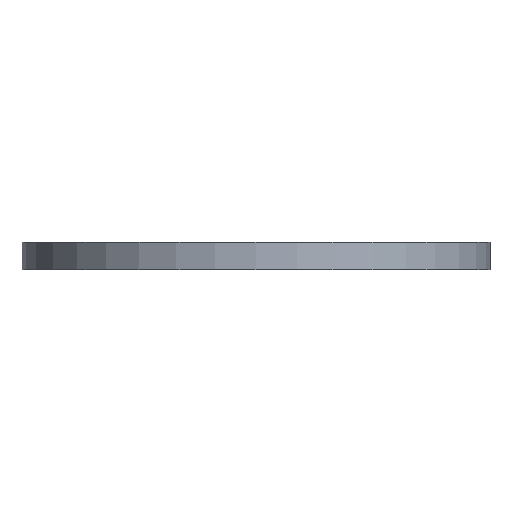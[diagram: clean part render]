
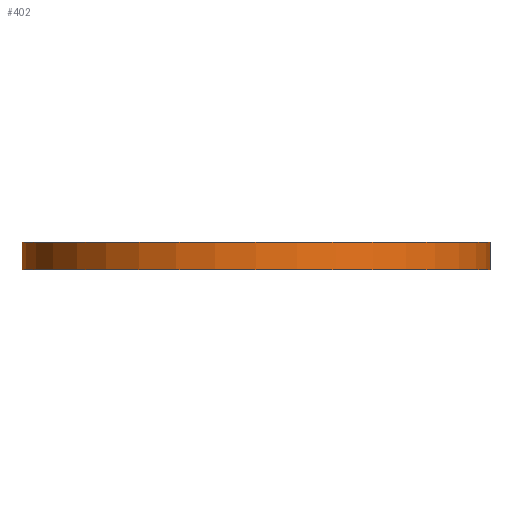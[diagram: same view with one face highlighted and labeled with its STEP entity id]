
A CAD part, left-side view. The second image highlights one B-rep face of the part: STEP entity #402.
In plain terms, the highlighted cylindrical face has radius 88.5 mm (diameter 177 mm), a partial arc.
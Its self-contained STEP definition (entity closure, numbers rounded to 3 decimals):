
#402=ADVANCED_FACE('',(#885),#4695,.T.);
#885=FACE_OUTER_BOUND('',#1368,.F.);
#1368=EDGE_LOOP('',(#1997,#1998,#1999,#2000));
#1997=ORIENTED_EDGE('',*,*,#6977,.T.);
#1998=ORIENTED_EDGE('',*,*,#6979,.F.);
#1999=ORIENTED_EDGE('',*,*,#6978,.T.);
#2000=ORIENTED_EDGE('',*,*,#6980,.T.);
#4695=CYLINDRICAL_SURFACE('',#9907,88.5);
#5132=LINE('',#14584,#5919);
#5133=LINE('',#14585,#5920);
#5919=VECTOR('',#11095,10.3);
#5920=VECTOR('',#11096,10.3);
#6977=EDGE_CURVE('',#8915,#8914,#8170,.T.);
#6978=EDGE_CURVE('',#8913,#8912,#8171,.T.);
#6979=EDGE_CURVE('',#8913,#8914,#5132,.T.);
#6980=EDGE_CURVE('',#8912,#8915,#5133,.T.);
#8170=CIRCLE('',#9616,88.5);
#8171=CIRCLE('',#9617,88.5);
#8912=VERTEX_POINT('',#13724);
#8913=VERTEX_POINT('',#13725);
#8914=VERTEX_POINT('',#13726);
#8915=VERTEX_POINT('',#13727);
#9616=AXIS2_PLACEMENT_3D('',#14582,#11091,#11092);
#9617=AXIS2_PLACEMENT_3D('',#14583,#11093,#11094);
#9907=AXIS2_PLACEMENT_3D('',#15504,#12304,#12305);
#11091=DIRECTION('',(0.,0.,1.));
#11092=DIRECTION('',(0.,1.,0.));
#11093=DIRECTION('',(0.,0.,-1.));
#11094=DIRECTION('',(0.,-1.,0.));
#11095=DIRECTION('',(0.,0.,1.));
#11096=DIRECTION('',(0.,0.,1.));
#12304=DIRECTION('',(0.,0.,-1.));
#12305=DIRECTION('',(0.,-1.,0.));
#13724=CARTESIAN_POINT('',(-203.258,75.17,-121.213));
#13725=CARTESIAN_POINT('',(-203.258,-101.83,-121.213));
#13726=CARTESIAN_POINT('',(-203.258,-101.83,-110.913));
#13727=CARTESIAN_POINT('',(-203.258,75.17,-110.913));
#14582=CARTESIAN_POINT('',(-203.258,-13.33,-110.913));
#14583=CARTESIAN_POINT('',(-203.258,-13.33,-121.213));
#14584=CARTESIAN_POINT('',(-203.258,-101.83,-121.213));
#14585=CARTESIAN_POINT('',(-203.258,75.17,-121.213));
#15504=CARTESIAN_POINT('',(-203.258,-13.33,-121.213));
